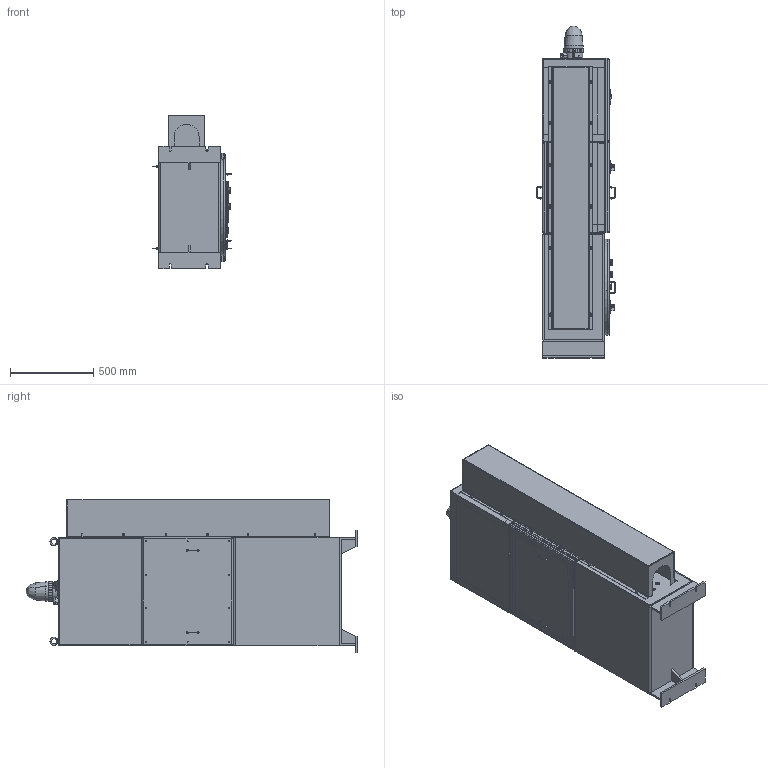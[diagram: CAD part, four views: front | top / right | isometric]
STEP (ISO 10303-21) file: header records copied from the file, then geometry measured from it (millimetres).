
FILE_DESCRIPTION (( 'STEP AP203' ), '1' );
FILE_NAME ('4755-ｻ昻ｵｱﾛｵ鄙ﾘﾏ萋｣ﾐﾍ.STEP', '2023-07-21T05:21:36', ( '' ), ( '' ), 'SwSTEP 2.0', 'SolidWorks 2017', '' );
FILE_SCHEMA (( 'CONFIG_CONTROL_DESIGN' ));
Products named in the file (1): 4755-ｻ昻ｵｱﾛｵ鄙ﾘﾏ萋｣ﾐﾍ
Bounding box: 470.5 x 1996 x 924 mm (x, y, z)
Volume: 54961344.5 mm3; surface area: 17057830.4 mm2
Topology: 109 solids, 109 shells, 5143 faces, 12974 edges, 8288 vertices
Faces by surface type: plane 2729, cylinder 1340, bspline 810, cone 264
Entity records: 192178 total; most frequent: CARTESIAN_POINT 72721, ORIENTED_EDGE 25728, DIRECTION 22366, EDGE_CURVE 12864, VERTEX_POINT 8288, LINE 8106, VECTOR 8106, AXIS2_PLACEMENT_3D 7130
